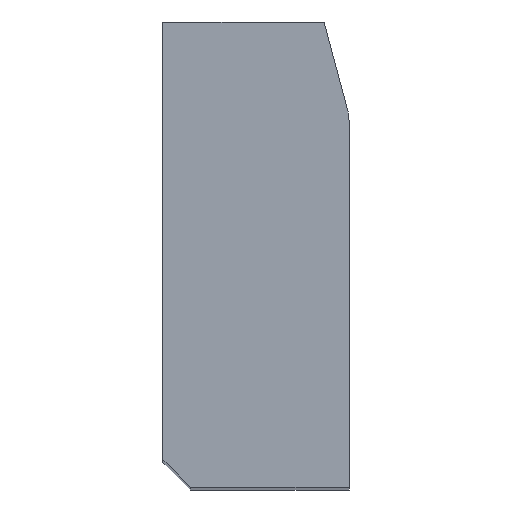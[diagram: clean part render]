
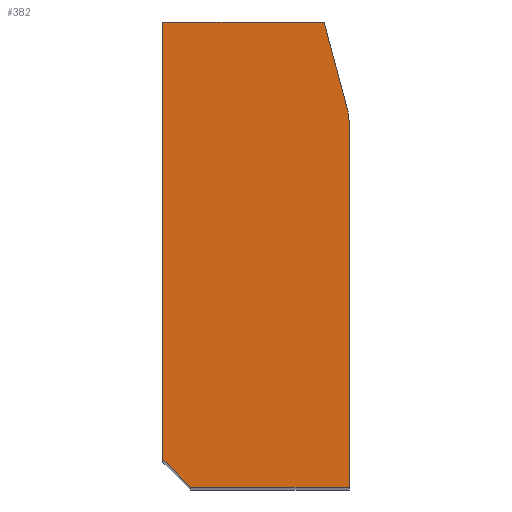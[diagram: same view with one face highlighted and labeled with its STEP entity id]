
A CAD part, top view. The second image highlights one B-rep face of the part: STEP entity #382.
In plain terms, the highlighted planar face has unit normal (0, 0, 1).
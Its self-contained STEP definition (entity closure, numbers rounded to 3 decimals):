
#70=CARTESIAN_POINT('Vertex',(0.,3.,80.)) ;
#73=CARTESIAN_POINT('Line Origine',(0.,26.5,80.)) ;
#77=CARTESIAN_POINT('Vertex',(0.,50.,80.)) ;
#320=CARTESIAN_POINT('Vertex',(3.,0.,80.)) ;
#323=CARTESIAN_POINT('Line Origine',(1.5,1.5,80.)) ;
#335=CARTESIAN_POINT('Axis2P3D Location',(15.,39.342,80.)) ;
#340=CARTESIAN_POINT('Line Origine',(11.5,0.,80.)) ;
#344=CARTESIAN_POINT('Vertex',(20.,0.,80.)) ;
#347=CARTESIAN_POINT('Line Origine',(20.,19.671,80.)) ;
#351=CARTESIAN_POINT('Vertex',(20.,39.342,80.)) ;
#354=CARTESIAN_POINT('Axis2P3D Location',(15.,39.342,80.)) ;
#358=CARTESIAN_POINT('Vertex',(19.83,40.636,80.)) ;
#361=CARTESIAN_POINT('Line Origine',(18.575,45.318,80.)) ;
#365=CARTESIAN_POINT('Vertex',(17.321,50.,80.)) ;
#368=CARTESIAN_POINT('Line Origine',(8.66,50.,80.)) ;
#74=DIRECTION('Vector Direction',(0.,-1.,0.)) ;
#324=DIRECTION('Vector Direction',(0.707,-0.707,0.)) ;
#336=DIRECTION('Axis2P3D Direction',(0.,0.,1.)) ;
#337=DIRECTION('Axis2P3D XDirection',(1.,0.,-0.)) ;
#341=DIRECTION('Vector Direction',(1.,0.,0.)) ;
#348=DIRECTION('Vector Direction',(0.,1.,0.)) ;
#355=DIRECTION('Axis2P3D Direction',(0.,0.,1.)) ;
#362=DIRECTION('Vector Direction',(-0.259,0.966,0.)) ;
#369=DIRECTION('Vector Direction',(-1.,0.,0.)) ;
#338=AXIS2_PLACEMENT_3D('Plane Axis2P3D',#335,#336,#337) ;
#356=AXIS2_PLACEMENT_3D('Circle Axis2P3D',#354,#355,$) ;
#374=ORIENTED_EDGE('',*,*,#79,.T.) ;
#375=ORIENTED_EDGE('',*,*,#327,.T.) ;
#376=ORIENTED_EDGE('',*,*,#346,.T.) ;
#377=ORIENTED_EDGE('',*,*,#353,.T.) ;
#378=ORIENTED_EDGE('',*,*,#360,.T.) ;
#379=ORIENTED_EDGE('',*,*,#367,.T.) ;
#380=ORIENTED_EDGE('',*,*,#372,.T.) ;
#75=VECTOR('Line Direction',#74,1.) ;
#325=VECTOR('Line Direction',#324,1.) ;
#342=VECTOR('Line Direction',#341,1.) ;
#349=VECTOR('Line Direction',#348,1.) ;
#363=VECTOR('Line Direction',#362,1.) ;
#370=VECTOR('Line Direction',#369,1.) ;
#382=ADVANCED_FACE('A915-160X50',(#381),#339,.T.) ;
#357=CIRCLE('generated circle',#356,5.) ;
#79=EDGE_CURVE('',#78,#71,#76,.T.) ;
#327=EDGE_CURVE('',#71,#321,#326,.T.) ;
#346=EDGE_CURVE('',#321,#345,#343,.T.) ;
#353=EDGE_CURVE('',#345,#352,#350,.T.) ;
#360=EDGE_CURVE('',#352,#359,#357,.T.) ;
#367=EDGE_CURVE('',#359,#366,#364,.T.) ;
#372=EDGE_CURVE('',#366,#78,#371,.T.) ;
#373=EDGE_LOOP('',(#374,#375,#376,#377,#378,#379,#380)) ;
#381=FACE_OUTER_BOUND('',#373,.T.) ;
#76=LINE('Line',#73,#75) ;
#326=LINE('Line',#323,#325) ;
#343=LINE('Line',#340,#342) ;
#350=LINE('Line',#347,#349) ;
#364=LINE('Line',#361,#363) ;
#371=LINE('Line',#368,#370) ;
#339=PLANE('Plane',#338) ;
#71=VERTEX_POINT('',#70) ;
#78=VERTEX_POINT('',#77) ;
#321=VERTEX_POINT('',#320) ;
#345=VERTEX_POINT('',#344) ;
#352=VERTEX_POINT('',#351) ;
#359=VERTEX_POINT('',#358) ;
#366=VERTEX_POINT('',#365) ;
